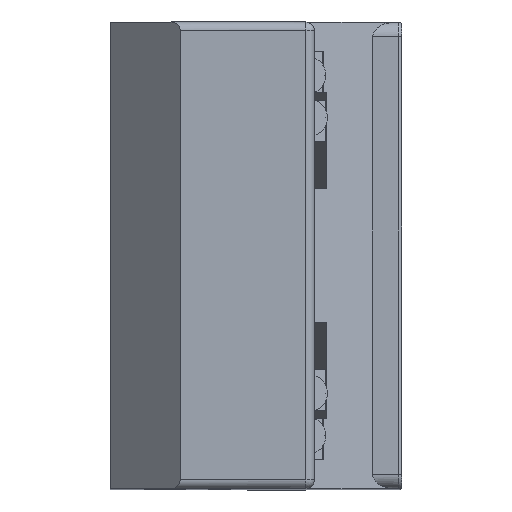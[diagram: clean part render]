
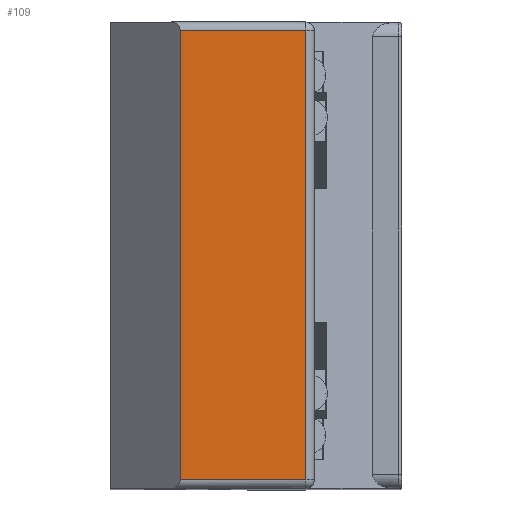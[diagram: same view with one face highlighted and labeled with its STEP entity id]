
A CAD part, top view. The second image highlights one B-rep face of the part: STEP entity #109.
In plain terms, the highlighted planar face has unit normal (0, 0, 1).
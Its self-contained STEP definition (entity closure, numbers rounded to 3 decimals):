
#109 = ADVANCED_FACE ( 'NONE', ( #17480 ), #17671, .F. ) ;
#164 = CARTESIAN_POINT ( 'NONE',  ( 19.203, 157., 56.728 ) ) ;
#611 = VERTEX_POINT ( 'NONE', #8977 ) ;
#1356 = CARTESIAN_POINT ( 'NONE',  ( 19.203, 3., 56.728 ) ) ;
#1405 = VERTEX_POINT ( 'NONE', #164 ) ;
#2058 = DIRECTION ( 'NONE',  ( 1., 0., 0. ) ) ;
#3018 = DIRECTION ( 'NONE',  ( 0., 1., 0. ) ) ;
#3798 = VERTEX_POINT ( 'NONE', #7506 ) ;
#4309 = CARTESIAN_POINT ( 'NONE',  ( 19.203, 160., 56.728 ) ) ;
#5589 = LINE ( 'NONE', #13803, #18705 ) ;
#6909 = VECTOR ( 'NONE', #2058, 1000. ) ;
#7235 = VERTEX_POINT ( 'NONE', #1356 ) ;
#7506 = CARTESIAN_POINT ( 'NONE',  ( -23.797, 157., 56.728 ) ) ;
#8333 = DIRECTION ( 'NONE',  ( 0., -1., 0. ) ) ;
#8601 = EDGE_LOOP ( 'NONE', ( #13646, #13993, #18481, #18209 ) ) ;
#8977 = CARTESIAN_POINT ( 'NONE',  ( -23.797, 3., 56.728 ) ) ;
#10134 = EDGE_CURVE ( 'NONE', #611, #3798, #10844, .T. ) ;
#10191 = EDGE_CURVE ( 'NONE', #7235, #1405, #17660, .T. ) ;
#10718 = VECTOR ( 'NONE', #3018, 1000. ) ;
#10844 = LINE ( 'NONE', #15466, #10718 ) ;
#11412 = LINE ( 'NONE', #17712, #6909 ) ;
#13513 = DIRECTION ( 'NONE',  ( -1., 0., 0. ) ) ;
#13646 = ORIENTED_EDGE ( 'NONE', *, *, #10191, .T. ) ;
#13803 = CARTESIAN_POINT ( 'NONE',  ( -23.797, 157., 56.728 ) ) ;
#13993 = ORIENTED_EDGE ( 'NONE', *, *, #15157, .T. ) ;
#14590 = DIRECTION ( 'NONE',  ( 0., 0., -1. ) ) ;
#15157 = EDGE_CURVE ( 'NONE', #1405, #3798, #5589, .T. ) ;
#15466 = CARTESIAN_POINT ( 'NONE',  ( -23.797, 155., 56.728 ) ) ;
#15880 = CARTESIAN_POINT ( 'NONE',  ( -23.797, 160., 56.728 ) ) ;
#17480 = FACE_OUTER_BOUND ( 'NONE', #8601, .T. ) ;
#17660 = LINE ( 'NONE', #4309, #18409 ) ;
#17671 = PLANE ( 'NONE',  #18056 ) ;
#17712 = CARTESIAN_POINT ( 'NONE',  ( -23.797, 3., 56.728 ) ) ;
#18056 = AXIS2_PLACEMENT_3D ( 'NONE', #15880, #14590, #8333 ) ;
#18209 = ORIENTED_EDGE ( 'NONE', *, *, #18454, .T. ) ;
#18409 = VECTOR ( 'NONE', #19654, 1000. ) ;
#18454 = EDGE_CURVE ( 'NONE', #611, #7235, #11412, .T. ) ;
#18481 = ORIENTED_EDGE ( 'NONE', *, *, #10134, .F. ) ;
#18705 = VECTOR ( 'NONE', #13513, 1000. ) ;
#19654 = DIRECTION ( 'NONE',  ( 0., 1., 0. ) ) ;
